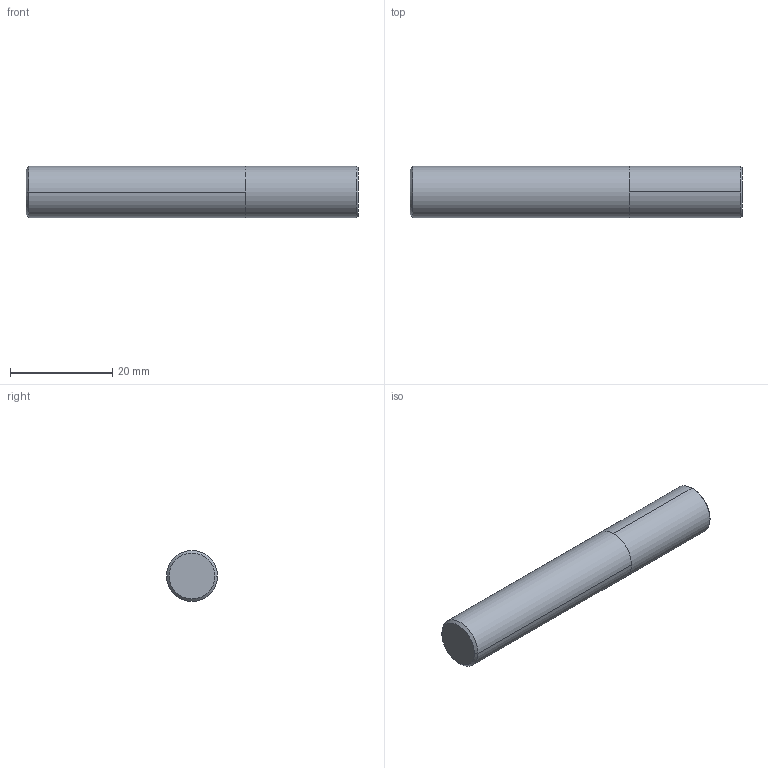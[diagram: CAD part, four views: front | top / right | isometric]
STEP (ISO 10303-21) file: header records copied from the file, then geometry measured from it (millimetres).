
FILE_DESCRIPTION (( 'STEP AP203' ), '1' );
FILE_NAME ('03-1761.STEP', '2021-09-10T07:21:37', ( 'USER' ), ( 'Hewlett-Packard Company' ), 'SwSTEP 2.0', 'SolidWorks 2014', '' );
FILE_SCHEMA (( 'CONFIG_CONTROL_DESIGN' ));
Length unit declared in the file: millimetre
Products named in the file (1): 03-1761
Bounding box: 65 x 10 x 10 mm (x, y, z)
Volume: 5100.3 mm3; surface area: 2342 mm2
Topology: 2 solids, 2 shells, 12 faces, 20 edges, 12 vertices
Faces by surface type: cylinder 4, cone 4, plane 4
Entity records: 359 total; most frequent: DIRECTION 58, CARTESIAN_POINT 45, ORIENTED_EDGE 40, AXIS2_PLACEMENT_3D 25, EDGE_CURVE 20, VERTEX_POINT 12, FACE_OUTER_BOUND 12, ADVANCED_FACE 12
